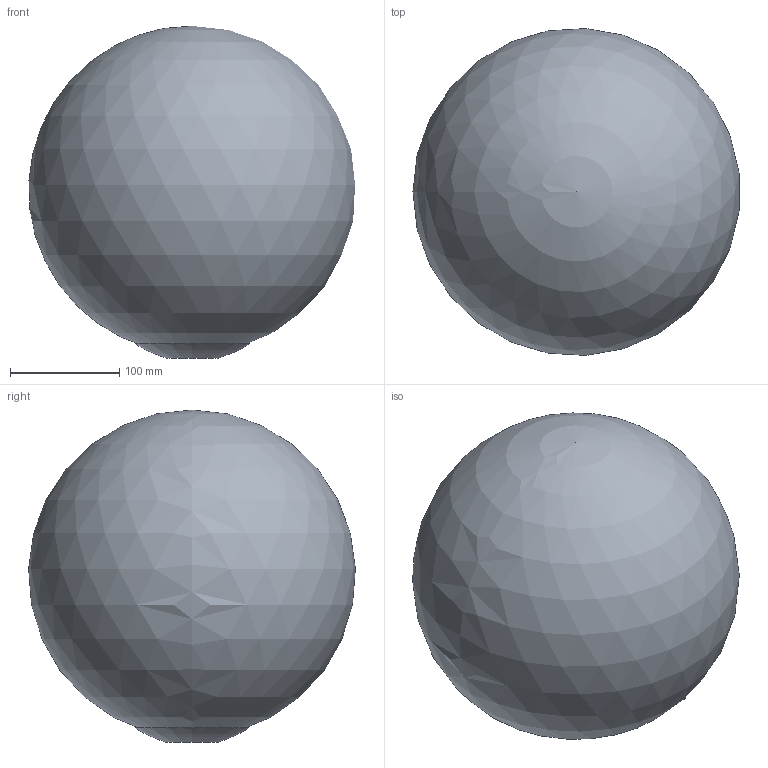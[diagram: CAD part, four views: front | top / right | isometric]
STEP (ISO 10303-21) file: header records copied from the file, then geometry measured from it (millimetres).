
FILE_DESCRIPTION(/* description */ (''),/* implementation_level */ '2;1');
FILE_NAME(/* name */ 'C:/Users/LukasGröber/GMS Cloud/Groeber Mannheim Lichtwerke - Dokumente/Marketing/Produkte/3D Daten/Snowball mobil/Snowball 30 Mobil.step',/* time_stamp */ '2022-07-06T16:24:31+02:00',/* author */ (''),/* organization */ (''),/* preprocessor_version */ 'ST-DEVELOPER v19',/* originating_system */ 'Autodesk Translation Framework v11.7.0.108',/* authorisation */ '');
FILE_SCHEMA (('AUTOMOTIVE_DESIGN { 1 0 10303 214 3 1 1 }'));
Length unit declared in the file: millimetre
Products named in the file (3): Snowball 30 Mobil; Gummifuß (Modell); Snowball 300 Öffnung 80
Assembly tree (2 placements, depth 2):
  Snowball 30 Mobil
    Gummifuß (Modell)
    Snowball 300 Öffnung 80
Bounding box: 298.69 x 299.36 x 304.17 mm (x, y, z)
Volume: 1046423.1 mm3; surface area: 568022.2 mm2
Topology: 2 solids, 2 shells, 24 faces, 57 edges, 38 vertices
Faces by surface type: plane 14, cylinder 5, cone 2, sphere 2, bspline 1
Full cylindrical faces by diameter (mm): 80 x1, 82.828 x1
Entity records: 881 total; most frequent: CARTESIAN_POINT 232, DIRECTION 130, ORIENTED_EDGE 110, EDGE_CURVE 55, AXIS2_PLACEMENT_3D 54, VERTEX_POINT 38, EDGE_LOOP 27, CIRCLE 26
